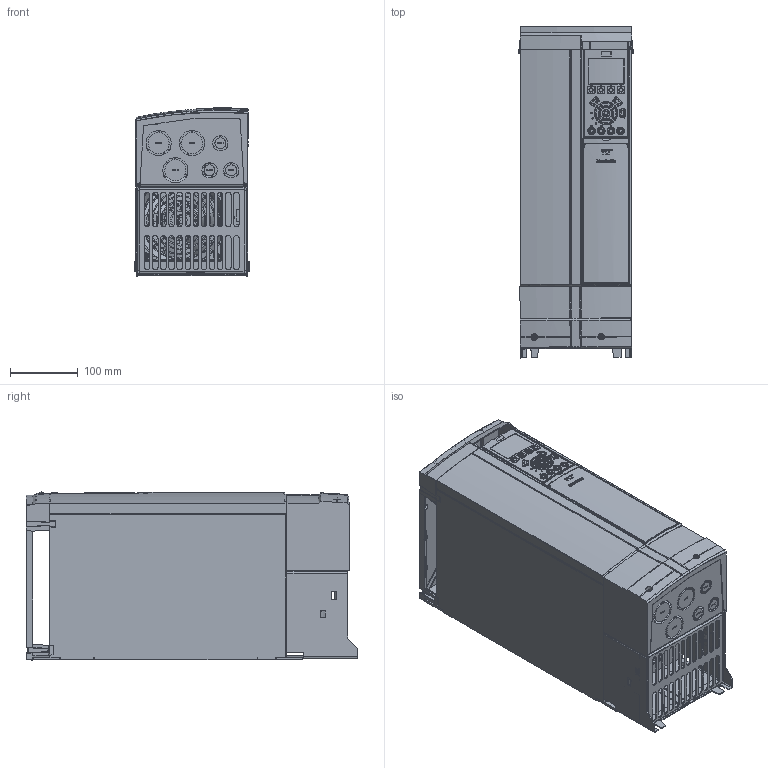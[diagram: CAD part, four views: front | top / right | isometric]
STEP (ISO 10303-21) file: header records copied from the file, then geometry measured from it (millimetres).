
FILE_DESCRIPTION((''),'2;1');
FILE_NAME('DANFOSS-FC300-B3-NEMA1-KIT-184','2008-07-10T',('Abhilash.Paramesh'),('dan Drives A/S'),'PRO/ENGINEER BY PARAMETRIC TECHNOLOGY CORPORATION, 2007160','PRO/ENGINEER BY PARAMETRIC TECHNOLOGY CORPORATION, 2007160','');
FILE_SCHEMA(('CONFIG_CONTROL_DESIGN', 'GEOMETRIC_VALIDATION_PROPERTIES_MIM'));
Length unit declared in the file: millimetre
Products named in the file (1): DANFOSS-FC300-B3-NEMA1-KIT-184
Bounding box: 169.82 x 490.92 x 248.8 mm (x, y, z)
Volume: 13979886.3 mm3; surface area: 898466 mm2
Topology: 2 solids, 21 shells, 6457 faces, 16389 edges, 9975 vertices
Faces by surface type: plane 2511, cylinder 2045, bspline 797, torus 461, sphere 332, extrusion 174, cone 137
Entity records: 323658 total; most frequent: CARTESIAN_POINT 95727, ORIENTED_EDGE 32546, DIRECTION 27928, PRESENTATION_STYLE_ASSIGNMENT 19601, STYLED_ITEM 16698, CURVE_STYLE 16447, EDGE_CURVE 16273, VERTEX_POINT 9974
